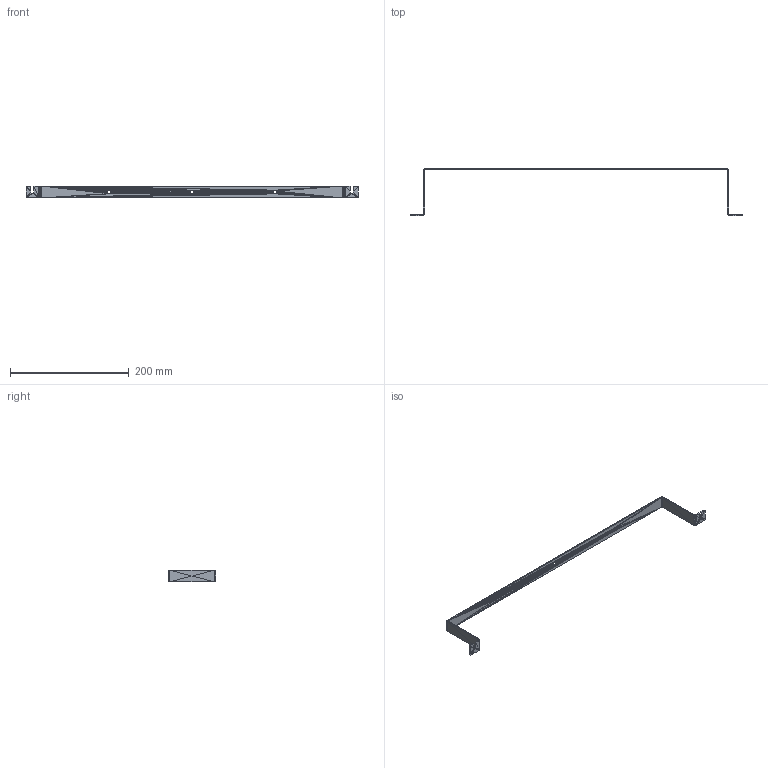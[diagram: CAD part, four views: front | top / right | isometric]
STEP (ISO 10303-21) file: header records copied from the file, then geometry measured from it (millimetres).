
FILE_DESCRIPTION((''),'2;1');
FILE_NAME('043360', '2025-08-07T07:45:43', (''), (''), 'ImageToStl.com STEP Converter','', '');
FILE_SCHEMA(('AUTOMOTIVE_DESIGN_CC2'));
Length unit declared in the file: metre
Products named in the file (1): product0
Bounding box: 558 x 80 x 20 mm (x, y, z)
Surface area: 31093.8 mm2 (no closed solid volume)
Topology: 0 solids, 384 shells, 384 faces, 1152 edges, 188 vertices
Faces by surface type: plane 384
Entity records: 8852 total; most frequent: DIRECTION 1922, ORIENTED_EDGE 1152, EDGE_CURVE 1152, LINE 1152, VECTOR 1152, AXIS2_PLACEMENT_3D 385, FACE_SURFACE 384, PLANE 384
